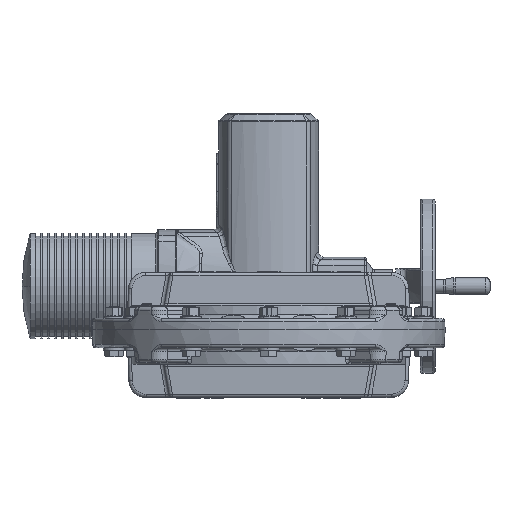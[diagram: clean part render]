
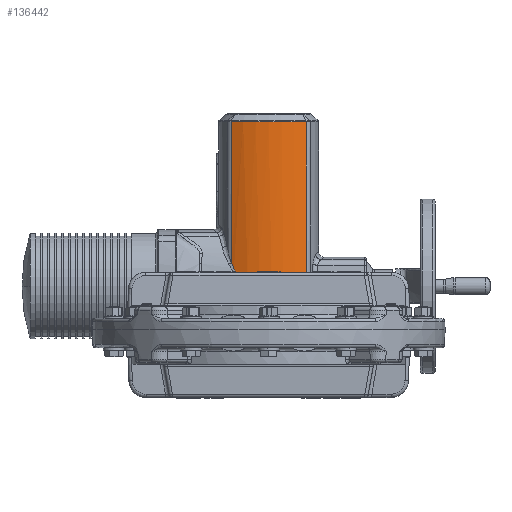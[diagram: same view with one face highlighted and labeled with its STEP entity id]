
A CAD part, front view. The second image highlights one B-rep face of the part: STEP entity #136442.
In plain terms, the highlighted cylindrical face has radius 100 mm (diameter 200 mm), a partial arc.
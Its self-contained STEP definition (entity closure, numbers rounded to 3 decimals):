
#860 = VERTEX_POINT ( 'NONE', #5800 ) ;
#3328 = EDGE_CURVE ( 'NONE', #36596, #62374, #112354, .T. ) ;
#5800 = CARTESIAN_POINT ( 'NONE',  ( 43.041, 739.237, 60.688 ) ) ;
#10334 = EDGE_CURVE ( 'NONE', #62374, #43595, #74895, .T. ) ;
#10640 = CARTESIAN_POINT ( 'NONE',  ( -43.041, 739.237, 76.501 ) ) ;
#10953 = CARTESIAN_POINT ( 'NONE',  ( -14.131, 730.488, 66.117 ) ) ;
#11131 = DIRECTION ( 'NONE',  ( -1., 0., 0. ) ) ;
#11480 = CARTESIAN_POINT ( 'NONE',  ( 22.103, 731.97, 65.176 ) ) ;
#15006 = CARTESIAN_POINT ( 'NONE',  ( 0., 829.5, 238.426 ) ) ;
#17507 = ORIENTED_EDGE ( 'NONE', *, *, #155206, .F. ) ;
#19914 = CARTESIAN_POINT ( 'NONE',  ( -43.041, 739.237, 247.75 ) ) ;
#22534 = B_SPLINE_CURVE_WITH_KNOTS ( 'NONE', 3,
 ( #121103, #59873, #145866, #72185, #158230, #84562, #10953, #96881, #23331, #109267, #35671, #121646, #48036, #134035, #60411, #146384, #72694, #158778, #85101, #11480, #97408, #23867, #109779, #36187, #122180, #48554 ),
 .UNSPECIFIED., .F., .F.,
 ( 4, 2, 2, 2, 2, 2, 2, 2, 2, 2, 2, 2, 4 ),
 ( 0., 0.01, 0.021, 0.026, 0.029, 0.031, 0.042, 0.052, 0.057, 0.06, 0.062, 0.073, 0.083 ),
 .UNSPECIFIED. ) ;
#22998 = CARTESIAN_POINT ( 'NONE',  ( 0., 829.5, 247.75 ) ) ;
#23042 = CARTESIAN_POINT ( 'NONE',  ( -40.772, 738.183, 71.911 ) ) ;
#23331 = CARTESIAN_POINT ( 'NONE',  ( -10.673, 730.067, 66.386 ) ) ;
#23867 = CARTESIAN_POINT ( 'NONE',  ( 27.143, 733.192, 64.404 ) ) ;
#27363 = DIRECTION ( 'NONE',  ( 1., 0., 0. ) ) ;
#31707 = DIRECTION ( 'NONE',  ( 0., 0., -1. ) ) ;
#32069 = DIRECTION ( 'NONE',  ( 0., 0., -1. ) ) ;
#35361 = CARTESIAN_POINT ( 'NONE',  ( -37.946, 736.976, 64.739 ) ) ;
#35671 = CARTESIAN_POINT ( 'NONE',  ( -8.057, 729.821, 66.544 ) ) ;
#36187 = CARTESIAN_POINT ( 'NONE',  ( 36.839, 736.47, 62.368 ) ) ;
#36596 = VERTEX_POINT ( 'NONE', #112857 ) ;
#37214 = VECTOR ( 'NONE', #32069, 1000. ) ;
#37231 = EDGE_CURVE ( 'NONE', #147640, #860, #22534, .T. ) ;
#43595 = VERTEX_POINT ( 'NONE', #71658 ) ;
#44426 = CARTESIAN_POINT ( 'NONE',  ( 43.041, 739.237, 247.75 ) ) ;
#48036 = CARTESIAN_POINT ( 'NONE',  ( -0.227, 729.44, 66.788 ) ) ;
#48554 = CARTESIAN_POINT ( 'NONE',  ( 43.041, 739.237, 60.688 ) ) ;
#49497 = ORIENTED_EDGE ( 'NONE', *, *, #10334, .T. ) ;
#49593 = CARTESIAN_POINT ( 'NONE',  ( -43.041, 739.237, 238.426 ) ) ;
#51326 = B_SPLINE_CURVE_WITH_KNOTS ( 'NONE', 3,
 ( #10640, #71870, #23042, #108967, #35361, #121337 ),
 .UNSPECIFIED., .F., .F.,
 ( 4, 2, 4 ),
 ( 0., 0.008, 0.016 ),
 .UNSPECIFIED. ) ;
#59873 = CARTESIAN_POINT ( 'NONE',  ( -34.072, 735.421, 63.013 ) ) ;
#60411 = CARTESIAN_POINT ( 'NONE',  ( 10.134, 729.955, 66.458 ) ) ;
#62374 = VERTEX_POINT ( 'NONE', #49593 ) ;
#71658 = CARTESIAN_POINT ( 'NONE',  ( -43.041, 739.237, 76.501 ) ) ;
#71870 = CARTESIAN_POINT ( 'NONE',  ( -41.868, 738.677, 74.227 ) ) ;
#72185 = CARTESIAN_POINT ( 'NONE',  ( -24.276, 732.431, 64.883 ) ) ;
#72694 = CARTESIAN_POINT ( 'NONE',  ( 16.99, 730.939, 65.83 ) ) ;
#74895 = LINE ( 'NONE', #19914, #136453 ) ;
#84562 = CARTESIAN_POINT ( 'NONE',  ( -15.843, 730.748, 65.951 ) ) ;
#85101 = CARTESIAN_POINT ( 'NONE',  ( 20.406, 731.6, 65.41 ) ) ;
#90082 = ORIENTED_EDGE ( 'NONE', *, *, #37231, .T. ) ;
#96881 = CARTESIAN_POINT ( 'NONE',  ( -11.541, 730.164, 66.324 ) ) ;
#97408 = CARTESIAN_POINT ( 'NONE',  ( 22.947, 732.165, 65.053 ) ) ;
#100928 = DIRECTION ( 'NONE',  ( 0., 0., -1. ) ) ;
#103042 = ORIENTED_EDGE ( 'NONE', *, *, #121714, .T. ) ;
#104122 = FACE_OUTER_BOUND ( 'NONE', #148539, .T. ) ;
#107593 = CARTESIAN_POINT ( 'NONE',  ( -37.247, 736.696, 62.232 ) ) ;
#108910 = DIRECTION ( 'NONE',  ( 0., 0., -1. ) ) ;
#108967 = CARTESIAN_POINT ( 'NONE',  ( -38.812, 737.333, 67.167 ) ) ;
#109267 = CARTESIAN_POINT ( 'NONE',  ( -8.931, 729.896, 66.496 ) ) ;
#109779 = CARTESIAN_POINT ( 'NONE',  ( 30.423, 734.179, 63.785 ) ) ;
#111606 = AXIS2_PLACEMENT_3D ( 'NONE', #22998, #108910, #11131 ) ;
#112354 = CIRCLE ( 'NONE', #119050, 100. ) ;
#112857 = CARTESIAN_POINT ( 'NONE',  ( 43.041, 739.237, 238.426 ) ) ;
#119050 = AXIS2_PLACEMENT_3D ( 'NONE', #15006, #100928, #27363 ) ;
#121103 = CARTESIAN_POINT ( 'NONE',  ( -37.247, 736.696, 62.232 ) ) ;
#121337 = CARTESIAN_POINT ( 'NONE',  ( -37.247, 736.696, 62.232 ) ) ;
#121646 = CARTESIAN_POINT ( 'NONE',  ( -3.699, 729.507, 66.745 ) ) ;
#121714 = EDGE_CURVE ( 'NONE', #43595, #147640, #51326, .T. ) ;
#122180 = CARTESIAN_POINT ( 'NONE',  ( 39.975, 737.775, 61.568 ) ) ;
#134035 = CARTESIAN_POINT ( 'NONE',  ( 6.69, 729.664, 66.645 ) ) ;
#135321 = LINE ( 'NONE', #44426, #37214 ) ;
#136442 = ADVANCED_FACE ( 'NONE', ( #104122 ), #154190, .T. ) ;
#136453 = VECTOR ( 'NONE', #31707, 1000. ) ;
#145866 = CARTESIAN_POINT ( 'NONE',  ( -30.843, 734.314, 63.702 ) ) ;
#146384 = CARTESIAN_POINT ( 'NONE',  ( 15.279, 730.659, 66.008 ) ) ;
#147640 = VERTEX_POINT ( 'NONE', #107593 ) ;
#148539 = EDGE_LOOP ( 'NONE', ( #103042, #90082, #17507, #153251, #49497 ) ) ;
#153251 = ORIENTED_EDGE ( 'NONE', *, *, #3328, .T. ) ;
#154190 = CYLINDRICAL_SURFACE ( 'NONE', #111606, 100. ) ;
#155206 = EDGE_CURVE ( 'NONE', #36596, #860, #135321, .T. ) ;
#158230 = CARTESIAN_POINT ( 'NONE',  ( -20.937, 731.656, 65.374 ) ) ;
#158778 = CARTESIAN_POINT ( 'NONE',  ( 19.552, 731.426, 65.52 ) ) ;
